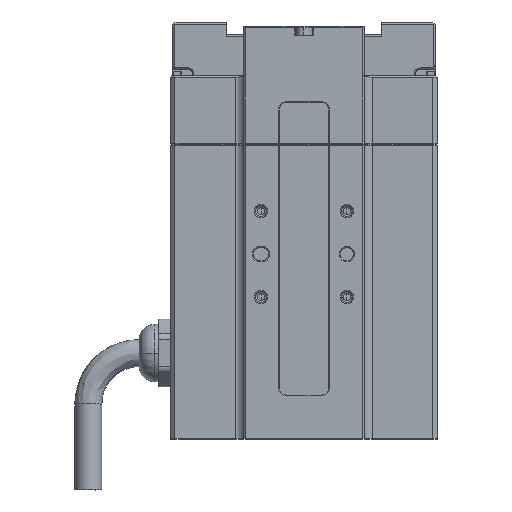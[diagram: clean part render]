
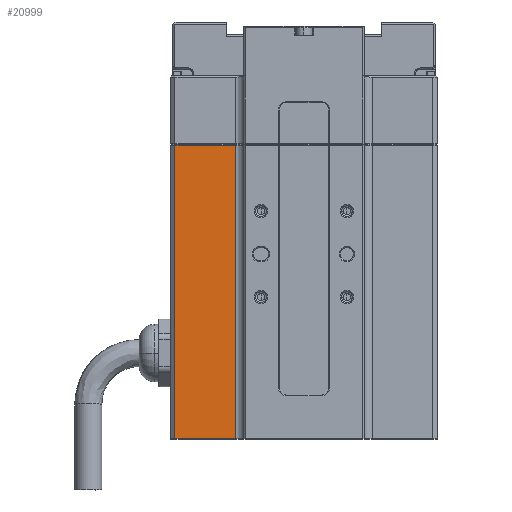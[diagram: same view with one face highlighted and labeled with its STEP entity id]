
A CAD part, top view. The second image highlights one B-rep face of the part: STEP entity #20999.
In plain terms, the highlighted planar face has unit normal (0, 0, 1).
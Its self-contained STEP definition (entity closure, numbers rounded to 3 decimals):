
#750 = VECTOR ( 'NONE', #1710, 1000. ) ;
#1710 = DIRECTION ( 'NONE',  ( 1., 0., 0. ) ) ;
#1975 = EDGE_CURVE ( 'NONE', #5952, #9864, #25840, .T. ) ;
#3008 = ORIENTED_EDGE ( 'NONE', *, *, #30536, .F. ) ;
#3375 = VECTOR ( 'NONE', #24146, 1000. ) ;
#3765 = FACE_OUTER_BOUND ( 'NONE', #22638, .T. ) ;
#4106 = AXIS2_PLACEMENT_3D ( 'NONE', #11783, #11903, #29454 ) ;
#5376 = VECTOR ( 'NONE', #10925, 1000. ) ;
#5952 = VERTEX_POINT ( 'NONE', #7372 ) ;
#7372 = CARTESIAN_POINT ( 'NONE',  ( -16., -86.9, 13. ) ) ;
#7411 = LINE ( 'NONE', #14411, #750 ) ;
#9680 = EDGE_CURVE ( 'NONE', #29548, #5952, #17834, .T. ) ;
#9864 = VERTEX_POINT ( 'NONE', #12732 ) ;
#10476 = ORIENTED_EDGE ( 'NONE', *, *, #28509, .F. ) ;
#10616 = ORIENTED_EDGE ( 'NONE', *, *, #1975, .F. ) ;
#10925 = DIRECTION ( 'NONE',  ( -1., 0., 0. ) ) ;
#11299 = DIRECTION ( 'NONE',  ( 0., -1., 0. ) ) ;
#11491 = VECTOR ( 'NONE', #11299, 1000. ) ;
#11783 = CARTESIAN_POINT ( 'NONE',  ( -31., 24.1, 13. ) ) ;
#11903 = DIRECTION ( 'NONE',  ( 0., 0., -1. ) ) ;
#12732 = CARTESIAN_POINT ( 'NONE',  ( -30., -86.9, 13. ) ) ;
#13032 = VERTEX_POINT ( 'NONE', #30514 ) ;
#13165 = CARTESIAN_POINT ( 'NONE',  ( 0., -86.9, 13. ) ) ;
#14411 = CARTESIAN_POINT ( 'NONE',  ( -31., -18.6, 13. ) ) ;
#16757 = CARTESIAN_POINT ( 'NONE',  ( -16., 24.1, 13. ) ) ;
#17834 = LINE ( 'NONE', #16757, #11491 ) ;
#19175 = CARTESIAN_POINT ( 'NONE',  ( -16., -18.6, 13. ) ) ;
#20350 = LINE ( 'NONE', #24469, #3375 ) ;
#20999 = ADVANCED_FACE ( 'NONE', ( #3765 ), #22004, .F. ) ;
#22004 = PLANE ( 'NONE',  #4106 ) ;
#22638 = EDGE_LOOP ( 'NONE', ( #3008, #10616, #30288, #10476 ) ) ;
#24146 = DIRECTION ( 'NONE',  ( 0., 1., 0. ) ) ;
#24469 = CARTESIAN_POINT ( 'NONE',  ( -30., 24.1, 13. ) ) ;
#25840 = LINE ( 'NONE', #13165, #5376 ) ;
#28509 = EDGE_CURVE ( 'NONE', #13032, #29548, #7411, .T. ) ;
#29454 = DIRECTION ( 'NONE',  ( -1., 0., 0. ) ) ;
#29548 = VERTEX_POINT ( 'NONE', #19175 ) ;
#30288 = ORIENTED_EDGE ( 'NONE', *, *, #9680, .F. ) ;
#30514 = CARTESIAN_POINT ( 'NONE',  ( -30., -18.6, 13. ) ) ;
#30536 = EDGE_CURVE ( 'NONE', #9864, #13032, #20350, .T. ) ;
